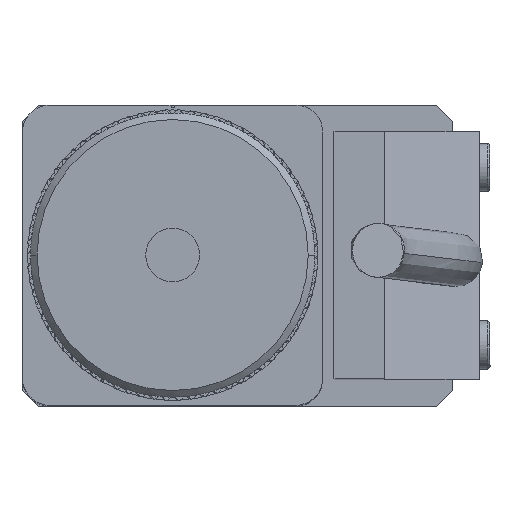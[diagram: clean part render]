
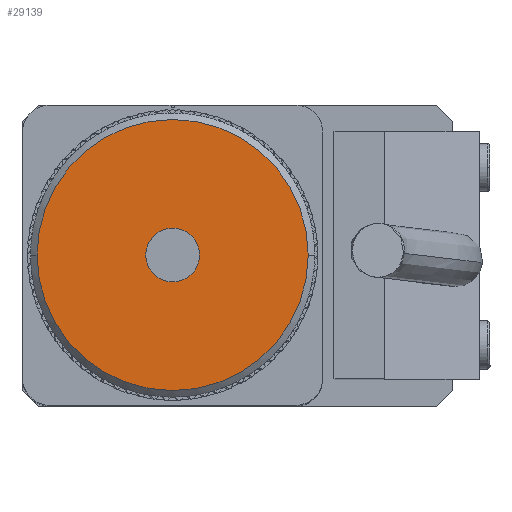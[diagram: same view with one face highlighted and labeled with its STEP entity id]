
A CAD part, top view. The second image highlights one B-rep face of the part: STEP entity #29139.
In plain terms, the highlighted planar face has unit normal (0, 0, 1).
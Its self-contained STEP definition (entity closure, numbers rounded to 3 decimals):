
#18547 = CARTESIAN_POINT ( 'NONE',  ( 12.6, 0., 153. ) ) ;
#18550 = CARTESIAN_POINT ( 'NONE',  ( -12.6, 0., 153. ) ) ;
#18552 = DIRECTION ( 'NONE',  ( -1., 0., 0. ) ) ;
#18553 = DIRECTION ( 'NONE',  ( 0., 0., -1. ) ) ;
#18555 = CARTESIAN_POINT ( 'NONE',  ( 0., 0., 153. ) ) ;
#18556 = AXIS2_PLACEMENT_3D ( 'NONE', #18555, #18553, #18552 ) ;
#18557 = CIRCLE ( 'NONE', #18556, 12.6 ) ;
#19393 = CARTESIAN_POINT ( 'NONE',  ( 2.5, 0., 153. ) ) ;
#19395 = DIRECTION ( 'NONE',  ( 1., 0., 0. ) ) ;
#19396 = DIRECTION ( 'NONE',  ( 0., 0., 1. ) ) ;
#19398 = CARTESIAN_POINT ( 'NONE',  ( 0., 0., 153. ) ) ;
#19400 = AXIS2_PLACEMENT_3D ( 'NONE', #19398, #19396, #19395 ) ;
#19401 = CIRCLE ( 'NONE', #19400, 2.5 ) ;
#19546 = CARTESIAN_POINT ( 'NONE',  ( -2.5, 0., 153. ) ) ;
#19555 = FACE_BOUND ( 'NONE', #29116, .T. ) ;
#19557 = FACE_OUTER_BOUND ( 'NONE', #29140, .T. ) ;
#19558 = DIRECTION ( 'NONE',  ( 1., 0., 0. ) ) ;
#19560 = DIRECTION ( 'NONE',  ( 0., 0., 1. ) ) ;
#19562 = AXIS2_PLACEMENT_3D ( 'NONE', #19575, #19560, #19558 ) ;
#19564 = CIRCLE ( 'NONE', #19562, 2.5 ) ;
#19575 = CARTESIAN_POINT ( 'NONE',  ( 0., 0., 153. ) ) ;
#19689 = DIRECTION ( 'NONE',  ( -1., 0., 0. ) ) ;
#19691 = DIRECTION ( 'NONE',  ( 0., 0., -1. ) ) ;
#19692 = CARTESIAN_POINT ( 'NONE',  ( 0., 0., 153. ) ) ;
#19693 = AXIS2_PLACEMENT_3D ( 'NONE', #19692, #19691, #19689 ) ;
#19695 = PLANE ( 'NONE',  #19693 ) ;
#19861 = DIRECTION ( 'NONE',  ( -1., 0., 0. ) ) ;
#19862 = DIRECTION ( 'NONE',  ( 0., 0., -1. ) ) ;
#19863 = CARTESIAN_POINT ( 'NONE',  ( 0., 0., 153. ) ) ;
#19865 = AXIS2_PLACEMENT_3D ( 'NONE', #19863, #19862, #19861 ) ;
#19867 = CIRCLE ( 'NONE', #19865, 12.6 ) ;
#28894 = EDGE_CURVE ( 'NONE', #28895, #28896, #18557, .T. ) ;
#28895 = VERTEX_POINT ( 'NONE', #18550 ) ;
#28896 = VERTEX_POINT ( 'NONE', #18547 ) ;
#29075 = EDGE_CURVE ( 'NONE', #29102, #29076, #19401, .T. ) ;
#29076 = VERTEX_POINT ( 'NONE', #19393 ) ;
#29102 = VERTEX_POINT ( 'NONE', #19546 ) ;
#29116 = EDGE_LOOP ( 'NONE', ( #29117, #29118 ) ) ;
#29117 = ORIENTED_EDGE ( 'NONE', *, *, #29138, .F. ) ;
#29118 = ORIENTED_EDGE ( 'NONE', *, *, #29075, .F. ) ;
#29138 = EDGE_CURVE ( 'NONE', #29076, #29102, #19564, .T. ) ;
#29139 = ADVANCED_FACE ( 'NONE', ( #19557, #19555 ), #19695, .F. ) ;
#29140 = EDGE_LOOP ( 'NONE', ( #29193, #29194 ) ) ;
#29193 = ORIENTED_EDGE ( 'NONE', *, *, #28894, .F. ) ;
#29194 = ORIENTED_EDGE ( 'NONE', *, *, #29195, .F. ) ;
#29195 = EDGE_CURVE ( 'NONE', #28896, #28895, #19867, .T. ) ;
